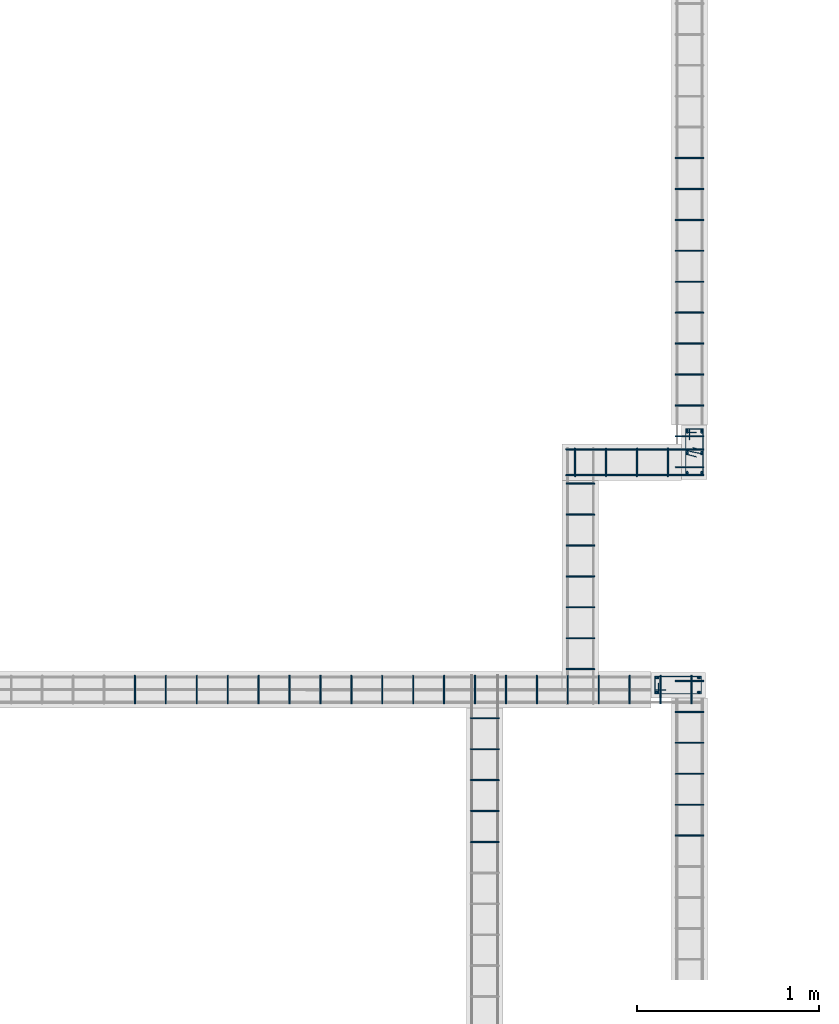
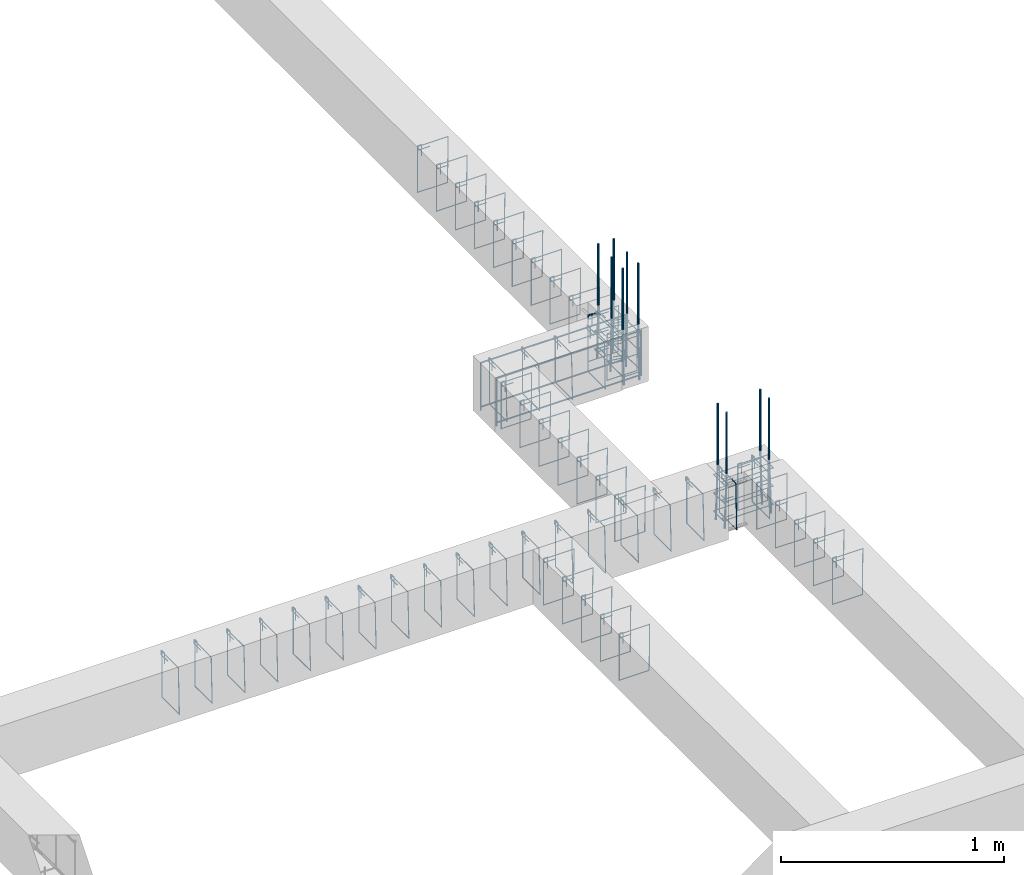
# One storey, part 37 of 150: 75 reinforcing bars.
"""IFC4 building model written with IfcOpenShell, lengths in centimetres."""

from ifc_helpers import new_model, entity, si_unit, derived_unit, frame, origin_with_axes, place, context, project, spatial, source, transform, mapped, element, save


model = new_model("IFC4")

# Units and contexts
model_context = context("Model", 3, precision=1e-05, world=origin_with_axes(), identifier="Body")
ifc_project = project(units=[si_unit("LENGTHUNIT", "METRE", prefix="CENTI"), si_unit("VOLUMEUNIT", "CUBIC_METRE"), si_unit("AREAUNIT", "SQUARE_METRE"), si_unit("POWERUNIT", "WATT"), si_unit("LUMINOUSFLUXUNIT", "LUMEN"), si_unit("ELECTRICCURRENTUNIT", "AMPERE"), si_unit("PRESSUREUNIT", "PASCAL", prefix="KILO"), si_unit("MASSUNIT", "GRAM", prefix="KILO"), si_unit("PLANEANGLEUNIT", "RADIAN"), derived_unit("VOLUMETRICFLOWRATEUNIT", [(si_unit("LENGTHUNIT", "METRE"), 3), (si_unit("TIMEUNIT", "SECOND"), -1)])], contexts=[model_context])

# Site, building, storey
site_placement = place(None, frame((-4000.0, 0.0, 0.0), z_axis=(0.0, 0.0, 1.0), x_axis=(1.0, 0.0, 0.0)))
site = spatial("IfcSite", under=ifc_project, at=site_placement, Name="PADRÃO")
building_placement = place(site_placement, frame((0.0, 0.0, -14.0)))
building = spatial("IfcBuilding", under=site, at=building_placement, Name="CRECHE PRÉ-ESCOLA TIPO 2")
placement = place(building_placement, origin_with_axes())
storey_placement = place(placement, frame((0.0, 0.0, 30.0), z_axis=(0.0, 0.0, 1.0), x_axis=(1.0, 0.0, 0.0)))
storey = spatial("IfcBuildingStorey", under=building, at=storey_placement, Name="VIGA BALDRAME", CompositionType="ELEMENT", Elevation=16.0)

# Reinforcing bars
shared_shape_1 = source(origin_with_axes(), model_context, "Body", "AdvancedSweptSolid", [
    entity("IfcSweptDiskSolid", entity("IfcCompositeCurve", [entity("IfcCompositeCurveSegment", "CONTINUOUS", True, entity("IfcPolyline", [entity("IfcCartesianPoint", [4.25, 21.75, 0.0]), entity("IfcCartesianPoint", [4.25, 27.75, 0.0])])), entity("IfcCompositeCurveSegment", "CONTINUOUS", True, entity("IfcPolyline", [entity("IfcCartesianPoint", [4.25, 27.75, 0.0]), entity("IfcCartesianPoint", [2.25, 27.75, 0.0])])), entity("IfcCompositeCurveSegment", "CONTINUOUS", True, entity("IfcPolyline", [entity("IfcCartesianPoint", [2.25, 27.75, 0.0]), entity("IfcCartesianPoint", [2.25, 2.25, 0.0])])), entity("IfcCompositeCurveSegment", "CONTINUOUS", True, entity("IfcPolyline", [entity("IfcCartesianPoint", [2.25, 2.25, 0.0]), entity("IfcCartesianPoint", [11.75, 2.25, 0.0])])), entity("IfcCompositeCurveSegment", "CONTINUOUS", True, entity("IfcPolyline", [entity("IfcCartesianPoint", [11.75, 2.25, 0.0]), entity("IfcCartesianPoint", [11.75, 27.75, -0.5])])), entity("IfcCompositeCurveSegment", "CONTINUOUS", True, entity("IfcPolyline", [entity("IfcCartesianPoint", [11.75, 27.75, -0.5]), entity("IfcCartesianPoint", [2.25, 27.75, -0.5])])), entity("IfcCompositeCurveSegment", "CONTINUOUS", True, entity("IfcPolyline", [entity("IfcCartesianPoint", [2.25, 27.75, -0.5]), entity("IfcCartesianPoint", [2.25, 25.75, -0.5])])), entity("IfcCompositeCurveSegment", "CONTINUOUS", True, entity("IfcPolyline", [entity("IfcCartesianPoint", [2.25, 25.75, -0.5]), entity("IfcCartesianPoint", [8.25, 25.75, -0.5])]))], False), 0.25),
])
for number, where, z_axis, x_axis, name in (
    (1, (1111.72, 1415.5, -25.0), (0.0, 0.0, 1.0), (1.0, 0.0, 0.0), "P102 - Estribo"),
    (2, (1111.72, 1415.5, -15.0), (0.0, 0.0, 1.0), (1.0, 0.0, 0.0), "P102 - Estribo"),
    (3, (1111.72, 1415.5, -5.0), (0.0, 0.0, 1.0), (1.0, 0.0, 0.0), "P102 - Estribo"),
):
    element("IfcReinforcingBar", number, at=place(storey_placement, frame(where, z_axis=z_axis, x_axis=x_axis)), inside=storey, Name=name, BarLength=0.0, CrossSectionArea=1.9634954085e-05, NominalDiameter=0.5, PredefinedType="MAIN", context=model_context, shape_type="MappedRepresentation", body=[
        mapped(shared_shape_1, transform((0.0, 0.0, 0.0), scale=1.0)),
    ])
shared_shape_2 = source(origin_with_axes(), model_context, "Body", "AdvancedSweptSolid", [
    entity("IfcSweptDiskSolid", entity("IfcCompositeCurve", [entity("IfcCompositeCurveSegment", "CONTINUOUS", True, entity("IfcPolyline", [entity("IfcCartesianPoint", [5.88627916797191, 17.5449050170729, 0.0]), entity("IfcCartesianPoint", [11.75, 16.0, 0.0])])), entity("IfcCompositeCurveSegment", "CONTINUOUS", True, entity("IfcPolyline", [entity("IfcCartesianPoint", [11.75, 16.0, 0.0]), entity("IfcCartesianPoint", [11.75, 14.0, 0.0])])), entity("IfcCompositeCurveSegment", "CONTINUOUS", True, entity("IfcPolyline", [entity("IfcCartesianPoint", [11.75, 14.0, 0.0]), entity("IfcCartesianPoint", [2.25, 16.0, 0.0])])), entity("IfcCompositeCurveSegment", "CONTINUOUS", True, entity("IfcPolyline", [entity("IfcCartesianPoint", [2.25, 16.0, 0.0]), entity("IfcCartesianPoint", [2.25, 14.0, 0.0])])), entity("IfcCompositeCurveSegment", "CONTINUOUS", True, entity("IfcPolyline", [entity("IfcCartesianPoint", [2.25, 14.0, 0.0]), entity("IfcCartesianPoint", [8.11372083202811, 12.4550949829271, 0.0])]))], False), 0.25),
])
for number, where, z_axis, x_axis, name in (
    (4, (1111.72, 1415.5, -24.5), (0.0, 0.0, 1.0), (1.0, 0.0, 0.0), "P102 - Grampo"),
    (5, (1111.72, 1415.5, -14.5), (0.0, 0.0, 1.0), (1.0, 0.0, 0.0), "P102 - Grampo"),
    (6, (1111.72, 1415.5, -4.5), (0.0, 0.0, 1.0), (1.0, 0.0, 0.0), "P102 - Grampo"),
):
    element("IfcReinforcingBar", number, at=place(storey_placement, frame(where, z_axis=z_axis, x_axis=x_axis)), inside=storey, Name=name, BarLength=0.0, CrossSectionArea=1.9634954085e-05, NominalDiameter=0.5, PredefinedType="MAIN", context=model_context, shape_type="MappedRepresentation", body=[
        mapped(shared_shape_2, transform((0.0, 0.0, 0.0), scale=1.0)),
    ])
shared_shape_3 = source(origin_with_axes(), model_context, "Body", "AdvancedSweptSolid", [
    entity("IfcSweptDiskSolid", entity("IfcCompositeCurve", [entity("IfcCompositeCurveSegment", "CONTINUOUS", True, entity("IfcPolyline", [entity("IfcCartesianPoint", [4.25, 21.75, 0.0]), entity("IfcCartesianPoint", [4.25, 27.75, 0.0])])), entity("IfcCompositeCurveSegment", "CONTINUOUS", True, entity("IfcPolyline", [entity("IfcCartesianPoint", [4.25, 27.75, 0.0]), entity("IfcCartesianPoint", [2.25, 27.75, 0.0])])), entity("IfcCompositeCurveSegment", "CONTINUOUS", True, entity("IfcPolyline", [entity("IfcCartesianPoint", [2.25, 27.75, 0.0]), entity("IfcCartesianPoint", [2.25, 2.25, 0.0])])), entity("IfcCompositeCurveSegment", "CONTINUOUS", True, entity("IfcPolyline", [entity("IfcCartesianPoint", [2.25, 2.25, 0.0]), entity("IfcCartesianPoint", [11.75, 2.25, 0.0])])), entity("IfcCompositeCurveSegment", "CONTINUOUS", True, entity("IfcPolyline", [entity("IfcCartesianPoint", [11.75, 2.25, 0.0]), entity("IfcCartesianPoint", [11.75, 27.75, -0.5])])), entity("IfcCompositeCurveSegment", "CONTINUOUS", True, entity("IfcPolyline", [entity("IfcCartesianPoint", [11.75, 27.75, -0.5]), entity("IfcCartesianPoint", [2.25, 27.75, -0.5])])), entity("IfcCompositeCurveSegment", "CONTINUOUS", True, entity("IfcPolyline", [entity("IfcCartesianPoint", [2.25, 27.75, -0.5]), entity("IfcCartesianPoint", [2.25, 25.75, -0.5])])), entity("IfcCompositeCurveSegment", "CONTINUOUS", True, entity("IfcPolyline", [entity("IfcCartesianPoint", [2.25, 25.75, -0.5]), entity("IfcCartesianPoint", [8.25, 25.75, -0.5])]))], False), 0.25),
])
for number, where, z_axis, x_axis, name in (
    (7, (1124.72, 1295.5, -5.0), (0.0, 0.0, 1.0), (0.0, 1.0, 0.0), "P109 - Estribo"),
    (8, (1124.72, 1295.5, -15.0), (0.0, 0.0, 1.0), (0.0, 1.0, 0.0), "P109 - Estribo"),
    (9, (1124.72, 1295.5, -25.0), (0.0, 0.0, 1.0), (0.0, 1.0, 0.0), "P109 - Estribo"),
):
    element("IfcReinforcingBar", number, at=place(storey_placement, frame(where, z_axis=z_axis, x_axis=x_axis)), inside=storey, Name=name, BarLength=0.0, CrossSectionArea=1.9634954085e-05, NominalDiameter=0.5, PredefinedType="MAIN", context=model_context, shape_type="MappedRepresentation", body=[
        mapped(shared_shape_3, transform((0.0, 0.0, 0.0), scale=1.0)),
    ])
shared_shape_4 = source(origin_with_axes(), model_context, "Body", "AdvancedSweptSolid", [
    entity("IfcSweptDiskSolid", entity("IfcCompositeCurve", [entity("IfcCompositeCurveSegment", "CONTINUOUS", True, entity("IfcPolyline", [entity("IfcCartesianPoint", [2.0, -6.0, 0.0]), entity("IfcCartesianPoint", [2.0, 0.0, 0.0])])), entity("IfcCompositeCurveSegment", "CONTINUOUS", True, entity("IfcPolyline", [entity("IfcCartesianPoint", [2.0, 0.0, 0.0]), entity("IfcCartesianPoint", [0.0, 0.0, 0.0])])), entity("IfcCompositeCurveSegment", "CONTINUOUS", True, entity("IfcPolyline", [entity("IfcCartesianPoint", [0.0, 0.0, 0.0]), entity("IfcCartesianPoint", [0.0, -25.5, 0.0])])), entity("IfcCompositeCurveSegment", "CONTINUOUS", True, entity("IfcPolyline", [entity("IfcCartesianPoint", [0.0, -25.5, 0.0]), entity("IfcCartesianPoint", [15.5, -25.5, 0.0])])), entity("IfcCompositeCurveSegment", "CONTINUOUS", True, entity("IfcPolyline", [entity("IfcCartesianPoint", [15.5, -25.5, 0.0]), entity("IfcCartesianPoint", [15.5, 0.0, 0.5])])), entity("IfcCompositeCurveSegment", "CONTINUOUS", True, entity("IfcPolyline", [entity("IfcCartesianPoint", [15.5, 0.0, 0.5]), entity("IfcCartesianPoint", [0.0, 0.0, 0.5])])), entity("IfcCompositeCurveSegment", "CONTINUOUS", True, entity("IfcPolyline", [entity("IfcCartesianPoint", [0.0, 0.0, 0.5]), entity("IfcCartesianPoint", [0.0, -2.0, 0.5])])), entity("IfcCompositeCurveSegment", "CONTINUOUS", True, entity("IfcPolyline", [entity("IfcCartesianPoint", [0.0, -2.0, 0.5]), entity("IfcCartesianPoint", [6.0, -2.0, 0.5])]))], False), 0.25),
])
for number, where, z_axis, x_axis, name in (
    (10, (1108.25, 1254.0, -2.25), (0.0, -1.0, 0.0), (1.0, 0.0, 0.0), "V182 - Estribo"),
    (11, (1108.25, 1237.0, -2.25), (0.0, -1.0, 0.0), (1.0, 0.0, 0.0), "V182 - Estribo"),
    (12, (1108.25, 1305.0, -2.25), (0.0, -1.0, 0.0), (1.0, 0.0, 0.0), "V182 - Estribo"),
    (13, (1108.25, 1288.0, -2.25), (0.0, -1.0, 0.0), (1.0, 0.0, 0.0), "V182 - Estribo"),
    (14, (1108.25, 1271.0, -2.25), (0.0, -1.0, 0.0), (1.0, 0.0, 0.0), "V182 - Estribo"),
    (15, (1108.25, 1220.0, -2.25), (0.0, -1.0, 0.0), (1.0, 0.0, 0.0), "V182 - Estribo"),
):
    element("IfcReinforcingBar", number, at=place(storey_placement, frame(where, z_axis=z_axis, x_axis=x_axis)), inside=storey, Name=name, BarLength=0.0, CrossSectionArea=1.9634954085e-05, NominalDiameter=0.5, PredefinedType="MAIN", context=model_context, shape_type="MappedRepresentation", body=[
        mapped(shared_shape_4, transform((0.0, 0.0, 0.0), scale=1.0)),
    ])
shared_shape_5 = source(origin_with_axes(), model_context, "Body", "AdvancedSweptSolid", [
    entity("IfcSweptDiskSolid", entity("IfcCompositeCurve", [entity("IfcCompositeCurveSegment", "CONTINUOUS", True, entity("IfcPolyline", [entity("IfcCartesianPoint", [2.0, -6.0, 0.0]), entity("IfcCartesianPoint", [2.0, 0.0, 0.0])])), entity("IfcCompositeCurveSegment", "CONTINUOUS", True, entity("IfcPolyline", [entity("IfcCartesianPoint", [2.0, 0.0, 0.0]), entity("IfcCartesianPoint", [0.0, 0.0, 0.0])])), entity("IfcCompositeCurveSegment", "CONTINUOUS", True, entity("IfcPolyline", [entity("IfcCartesianPoint", [0.0, 0.0, 0.0]), entity("IfcCartesianPoint", [0.0, -25.5, 0.0])])), entity("IfcCompositeCurveSegment", "CONTINUOUS", True, entity("IfcPolyline", [entity("IfcCartesianPoint", [0.0, -25.5, 0.0]), entity("IfcCartesianPoint", [15.5, -25.5, 0.0])])), entity("IfcCompositeCurveSegment", "CONTINUOUS", True, entity("IfcPolyline", [entity("IfcCartesianPoint", [15.5, -25.5, 0.0]), entity("IfcCartesianPoint", [15.5, 0.0, 0.5])])), entity("IfcCompositeCurveSegment", "CONTINUOUS", True, entity("IfcPolyline", [entity("IfcCartesianPoint", [15.5, 0.0, 0.5]), entity("IfcCartesianPoint", [0.0, 0.0, 0.5])])), entity("IfcCompositeCurveSegment", "CONTINUOUS", True, entity("IfcPolyline", [entity("IfcCartesianPoint", [0.0, 0.0, 0.5]), entity("IfcCartesianPoint", [0.0, -2.0, 0.5])])), entity("IfcCompositeCurveSegment", "CONTINUOUS", True, entity("IfcPolyline", [entity("IfcCartesianPoint", [0.0, -2.0, 0.5]), entity("IfcCartesianPoint", [6.0, -2.0, 0.5])]))], False), 0.25),
])
for number, where, z_axis, x_axis, name in (
    (16, (964.36, 1307.75, -2.25), (-1.0, 0.0, 0.0), (0.0, -1.0, 0.0), "V136 - Estribo"),
    (17, (1117.36, 1307.75, -2.25), (-1.0, 0.0, 0.0), (0.0, -1.0, 0.0), "V136 - Estribo"),
    (18, (1100.36, 1307.75, -2.25), (-1.0, 0.0, 0.0), (0.0, -1.0, 0.0), "V136 - Estribo"),
    (19, (1083.36, 1307.75, -2.25), (-1.0, 0.0, 0.0), (0.0, -1.0, 0.0), "V136 - Estribo"),
    (20, (1066.36, 1307.75, -2.25), (-1.0, 0.0, 0.0), (0.0, -1.0, 0.0), "V136 - Estribo"),
    (21, (1049.36, 1307.75, -2.25), (-1.0, 0.0, 0.0), (0.0, -1.0, 0.0), "V136 - Estribo"),
    (22, (1032.36, 1307.75, -2.25), (-1.0, 0.0, 0.0), (0.0, -1.0, 0.0), "V136 - Estribo"),
    (23, (1015.36, 1307.75, -2.25), (-1.0, 0.0, 0.0), (0.0, -1.0, 0.0), "V136 - Estribo"),
    (24, (998.36, 1307.75, -2.25), (-1.0, 0.0, 0.0), (0.0, -1.0, 0.0), "V136 - Estribo"),
    (25, (981.36, 1307.75, -2.25), (-1.0, 0.0, 0.0), (0.0, -1.0, 0.0), "V136 - Estribo"),
    (26, (947.36, 1307.75, -2.25), (-1.0, 0.0, 0.0), (0.0, -1.0, 0.0), "V136 - Estribo"),
    (27, (930.36, 1307.75, -2.25), (-1.0, 0.0, 0.0), (0.0, -1.0, 0.0), "V136 - Estribo"),
    (28, (913.36, 1307.75, -2.25), (-1.0, 0.0, 0.0), (0.0, -1.0, 0.0), "V136 - Estribo"),
    (29, (896.36, 1307.75, -2.25), (-1.0, 0.0, 0.0), (0.0, -1.0, 0.0), "V136 - Estribo"),
    (30, (879.36, 1307.75, -2.25), (-1.0, 0.0, 0.0), (0.0, -1.0, 0.0), "V136 - Estribo"),
    (31, (862.36, 1307.75, -2.25), (-1.0, 0.0, 0.0), (0.0, -1.0, 0.0), "V136 - Estribo"),
    (32, (845.36, 1307.75, -2.25), (-1.0, 0.0, 0.0), (0.0, -1.0, 0.0), "V136 - Estribo"),
    (33, (828.36, 1307.75, -2.25), (-1.0, 0.0, 0.0), (0.0, -1.0, 0.0), "V136 - Estribo"),
    (34, (811.36, 1307.75, -2.25), (-1.0, 0.0, 0.0), (0.0, -1.0, 0.0), "V136 - Estribo"),
):
    element("IfcReinforcingBar", number, at=place(storey_placement, frame(where, z_axis=z_axis, x_axis=x_axis)), inside=storey, Name=name, BarLength=0.0, CrossSectionArea=1.9634954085e-05, NominalDiameter=0.5, PredefinedType="MAIN", context=model_context, shape_type="MappedRepresentation", body=[
        mapped(shared_shape_5, transform((0.0, 0.0, 0.0), scale=1.0)),
    ])
shared_shape_6 = source(origin_with_axes(), model_context, "Body", "AdvancedSweptSolid", [
    entity("IfcSweptDiskSolid", entity("IfcCompositeCurve", [entity("IfcCompositeCurveSegment", "CONTINUOUS", True, entity("IfcPolyline", [entity("IfcCartesianPoint", [2.0, -6.0, 0.0]), entity("IfcCartesianPoint", [2.0, 0.0, 0.0])])), entity("IfcCompositeCurveSegment", "CONTINUOUS", True, entity("IfcPolyline", [entity("IfcCartesianPoint", [2.0, 0.0, 0.0]), entity("IfcCartesianPoint", [0.0, 0.0, 0.0])])), entity("IfcCompositeCurveSegment", "CONTINUOUS", True, entity("IfcPolyline", [entity("IfcCartesianPoint", [0.0, 0.0, 0.0]), entity("IfcCartesianPoint", [0.0, -25.5, 0.0])])), entity("IfcCompositeCurveSegment", "CONTINUOUS", True, entity("IfcPolyline", [entity("IfcCartesianPoint", [0.0, -25.5, 0.0]), entity("IfcCartesianPoint", [15.5, -25.5, 0.0])])), entity("IfcCompositeCurveSegment", "CONTINUOUS", True, entity("IfcPolyline", [entity("IfcCartesianPoint", [15.5, -25.5, 0.0]), entity("IfcCartesianPoint", [15.5, 0.0, 0.5])])), entity("IfcCompositeCurveSegment", "CONTINUOUS", True, entity("IfcPolyline", [entity("IfcCartesianPoint", [15.5, 0.0, 0.5]), entity("IfcCartesianPoint", [0.0, 0.0, 0.5])])), entity("IfcCompositeCurveSegment", "CONTINUOUS", True, entity("IfcPolyline", [entity("IfcCartesianPoint", [0.0, 0.0, 0.5]), entity("IfcCartesianPoint", [0.0, -2.0, 0.5])])), entity("IfcCompositeCurveSegment", "CONTINUOUS", True, entity("IfcPolyline", [entity("IfcCartesianPoint", [0.0, -2.0, 0.5]), entity("IfcCartesianPoint", [6.0, -2.0, 0.5])]))], False), 0.25),
])
for number, where, z_axis, x_axis, name in (
    (35, (1108.25, 1473.5, -2.25), (0.0, -1.0, 0.0), (1.0, 0.0, 0.0), "V183 - Estribo"),
    (36, (1108.25, 1456.5, -2.25), (0.0, -1.0, 0.0), (1.0, 0.0, 0.0), "V183 - Estribo"),
    (37, (1108.25, 1439.5, -2.25), (0.0, -1.0, 0.0), (1.0, 0.0, 0.0), "V183 - Estribo"),
    (38, (1108.25, 1422.5, -2.25), (0.0, -1.0, 0.0), (1.0, 0.0, 0.0), "V183 - Estribo"),
    (39, (1108.25, 1592.5, -2.25), (0.0, -1.0, 0.0), (1.0, 0.0, 0.0), "V183 - Estribo"),
    (40, (1108.25, 1575.5, -2.25), (0.0, -1.0, 0.0), (1.0, 0.0, 0.0), "V183 - Estribo"),
    (41, (1108.25, 1558.5, -2.25), (0.0, -1.0, 0.0), (1.0, 0.0, 0.0), "V183 - Estribo"),
    (42, (1108.25, 1541.5, -2.25), (0.0, -1.0, 0.0), (1.0, 0.0, 0.0), "V183 - Estribo"),
    (43, (1108.25, 1524.5, -2.25), (0.0, -1.0, 0.0), (1.0, 0.0, 0.0), "V183 - Estribo"),
    (44, (1108.25, 1507.5, -2.25), (0.0, -1.0, 0.0), (1.0, 0.0, 0.0), "V183 - Estribo"),
    (45, (1108.25, 1490.5, -2.25), (0.0, -1.0, 0.0), (1.0, 0.0, 0.0), "V183 - Estribo"),
):
    element("IfcReinforcingBar", number, at=place(storey_placement, frame(where, z_axis=z_axis, x_axis=x_axis)), inside=storey, Name=name, BarLength=0.0, CrossSectionArea=1.9634954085e-05, NominalDiameter=0.5, PredefinedType="MAIN", context=model_context, shape_type="MappedRepresentation", body=[
        mapped(shared_shape_6, transform((0.0, 0.0, 0.0), scale=1.0)),
    ])
shared_shape_7 = source(origin_with_axes(), model_context, "Body", "AdvancedSweptSolid", [
    entity("IfcSweptDiskSolid", entity("IfcCompositeCurve", [entity("IfcCompositeCurveSegment", "CONTINUOUS", True, entity("IfcPolyline", [entity("IfcCartesianPoint", [2.0, -6.0, 0.0]), entity("IfcCartesianPoint", [2.0, 0.0, 0.0])])), entity("IfcCompositeCurveSegment", "CONTINUOUS", True, entity("IfcPolyline", [entity("IfcCartesianPoint", [2.0, 0.0, 0.0]), entity("IfcCartesianPoint", [0.0, 0.0, 0.0])])), entity("IfcCompositeCurveSegment", "CONTINUOUS", True, entity("IfcPolyline", [entity("IfcCartesianPoint", [0.0, 0.0, 0.0]), entity("IfcCartesianPoint", [0.0, -25.5, 0.0])])), entity("IfcCompositeCurveSegment", "CONTINUOUS", True, entity("IfcPolyline", [entity("IfcCartesianPoint", [0.0, -25.5, 0.0]), entity("IfcCartesianPoint", [15.5, -25.5, 0.0])])), entity("IfcCompositeCurveSegment", "CONTINUOUS", True, entity("IfcPolyline", [entity("IfcCartesianPoint", [15.5, -25.5, 0.0]), entity("IfcCartesianPoint", [15.5, 0.0, 0.5])])), entity("IfcCompositeCurveSegment", "CONTINUOUS", True, entity("IfcPolyline", [entity("IfcCartesianPoint", [15.5, 0.0, 0.5]), entity("IfcCartesianPoint", [0.0, 0.0, 0.5])])), entity("IfcCompositeCurveSegment", "CONTINUOUS", True, entity("IfcPolyline", [entity("IfcCartesianPoint", [0.0, 0.0, 0.5]), entity("IfcCartesianPoint", [0.0, -2.0, 0.5])])), entity("IfcCompositeCurveSegment", "CONTINUOUS", True, entity("IfcPolyline", [entity("IfcCartesianPoint", [0.0, -2.0, 0.5]), entity("IfcCartesianPoint", [6.0, -2.0, 0.5])]))], False), 0.25),
])
for number, where, z_axis, x_axis, name in (
    (46, (1048.25, 1413.5, -2.25), (0.0, -1.0, 0.0), (1.0, 0.0, 0.0), "V180 - Estribo"),
    (47, (1048.25, 1328.5, -2.25), (0.0, -1.0, 0.0), (1.0, 0.0, 0.0), "V180 - Estribo"),
    (48, (1048.25, 1311.5, -2.25), (0.0, -1.0, 0.0), (1.0, 0.0, 0.0), "V180 - Estribo"),
    (49, (1048.25, 1396.5, -2.25), (0.0, -1.0, 0.0), (1.0, 0.0, 0.0), "V180 - Estribo"),
    (50, (1048.25, 1379.5, -2.25), (0.0, -1.0, 0.0), (1.0, 0.0, 0.0), "V180 - Estribo"),
    (51, (1048.25, 1362.5, -2.25), (0.0, -1.0, 0.0), (1.0, 0.0, 0.0), "V180 - Estribo"),
    (52, (1048.25, 1345.5, -2.25), (0.0, -1.0, 0.0), (1.0, 0.0, 0.0), "V180 - Estribo"),
):
    element("IfcReinforcingBar", number, at=place(storey_placement, frame(where, z_axis=z_axis, x_axis=x_axis)), inside=storey, Name=name, BarLength=0.0, CrossSectionArea=1.9634954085e-05, NominalDiameter=0.5, PredefinedType="MAIN", context=model_context, shape_type="MappedRepresentation", body=[
        mapped(shared_shape_7, transform((0.0, 0.0, 0.0), scale=1.0)),
    ])
shared_shape_8 = source(origin_with_axes(), model_context, "Body", "AdvancedSweptSolid", [
    entity("IfcSweptDiskSolid", entity("IfcCompositeCurve", [entity("IfcCompositeCurveSegment", "CONTINUOUS", True, entity("IfcPolyline", [entity("IfcCartesianPoint", [2.0, -6.0, 0.0]), entity("IfcCartesianPoint", [2.0, 0.0, 0.0])])), entity("IfcCompositeCurveSegment", "CONTINUOUS", True, entity("IfcPolyline", [entity("IfcCartesianPoint", [2.0, 0.0, 0.0]), entity("IfcCartesianPoint", [0.0, 0.0, 0.0])])), entity("IfcCompositeCurveSegment", "CONTINUOUS", True, entity("IfcPolyline", [entity("IfcCartesianPoint", [0.0, 0.0, 0.0]), entity("IfcCartesianPoint", [0.0, -25.5, 0.0])])), entity("IfcCompositeCurveSegment", "CONTINUOUS", True, entity("IfcPolyline", [entity("IfcCartesianPoint", [0.0, -25.5, 0.0]), entity("IfcCartesianPoint", [15.5, -25.5, 0.0])])), entity("IfcCompositeCurveSegment", "CONTINUOUS", True, entity("IfcPolyline", [entity("IfcCartesianPoint", [15.5, -25.5, 0.0]), entity("IfcCartesianPoint", [15.5, 0.0, 0.5])])), entity("IfcCompositeCurveSegment", "CONTINUOUS", True, entity("IfcPolyline", [entity("IfcCartesianPoint", [15.5, 0.0, 0.5]), entity("IfcCartesianPoint", [0.0, 0.0, 0.5])])), entity("IfcCompositeCurveSegment", "CONTINUOUS", True, entity("IfcPolyline", [entity("IfcCartesianPoint", [0.0, 0.0, 0.5]), entity("IfcCartesianPoint", [0.0, -2.0, 0.5])])), entity("IfcCompositeCurveSegment", "CONTINUOUS", True, entity("IfcPolyline", [entity("IfcCartesianPoint", [0.0, -2.0, 0.5]), entity("IfcCartesianPoint", [6.0, -2.0, 0.5])]))], False), 0.25),
])
for number, where, z_axis, x_axis, name in (
    (53, (1053.36, 1432.75, -2.25), (-1.0, 0.0, 0.0), (0.0, -1.0, 0.0), "V134 - Estribo"),
    (54, (1104.36, 1432.75, -2.25), (-1.0, 0.0, 0.0), (0.0, -1.0, 0.0), "V134 - Estribo"),
    (55, (1087.36, 1432.75, -2.25), (-1.0, 0.0, 0.0), (0.0, -1.0, 0.0), "V134 - Estribo"),
    (56, (1070.36, 1432.75, -2.25), (-1.0, 0.0, 0.0), (0.0, -1.0, 0.0), "V134 - Estribo"),
):
    element("IfcReinforcingBar", number, at=place(storey_placement, frame(where, z_axis=z_axis, x_axis=x_axis)), inside=storey, Name=name, BarLength=0.0, CrossSectionArea=1.9634954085e-05, NominalDiameter=0.5, PredefinedType="MAIN", context=model_context, shape_type="MappedRepresentation", body=[
        mapped(shared_shape_8, transform((0.0, 0.0, 0.0), scale=1.0)),
    ])
shared_shape_9 = source(origin_with_axes(), model_context, "Body", "AdvancedSweptSolid", [
    entity("IfcSweptDiskSolid", entity("IfcCompositeCurve", [entity("IfcCompositeCurveSegment", "CONTINUOUS", True, entity("IfcPolyline", [entity("IfcCartesianPoint", [2.0, -6.0, 0.0]), entity("IfcCartesianPoint", [2.0, 0.0, 0.0])])), entity("IfcCompositeCurveSegment", "CONTINUOUS", True, entity("IfcPolyline", [entity("IfcCartesianPoint", [2.0, 0.0, 0.0]), entity("IfcCartesianPoint", [0.0, 0.0, 0.0])])), entity("IfcCompositeCurveSegment", "CONTINUOUS", True, entity("IfcPolyline", [entity("IfcCartesianPoint", [0.0, 0.0, 0.0]), entity("IfcCartesianPoint", [0.0, -25.5, 0.0])])), entity("IfcCompositeCurveSegment", "CONTINUOUS", True, entity("IfcPolyline", [entity("IfcCartesianPoint", [0.0, -25.5, 0.0]), entity("IfcCartesianPoint", [15.5, -25.5, 0.0])])), entity("IfcCompositeCurveSegment", "CONTINUOUS", True, entity("IfcPolyline", [entity("IfcCartesianPoint", [15.5, -25.5, 0.0]), entity("IfcCartesianPoint", [15.5, 0.0, 0.5])])), entity("IfcCompositeCurveSegment", "CONTINUOUS", True, entity("IfcPolyline", [entity("IfcCartesianPoint", [15.5, 0.0, 0.5]), entity("IfcCartesianPoint", [0.0, 0.0, 0.5])])), entity("IfcCompositeCurveSegment", "CONTINUOUS", True, entity("IfcPolyline", [entity("IfcCartesianPoint", [0.0, 0.0, 0.5]), entity("IfcCartesianPoint", [0.0, -2.0, 0.5])])), entity("IfcCompositeCurveSegment", "CONTINUOUS", True, entity("IfcPolyline", [entity("IfcCartesianPoint", [0.0, -2.0, 0.5]), entity("IfcCartesianPoint", [6.0, -2.0, 0.5])]))], False), 0.25),
])
for number, where, z_axis, x_axis, name in (
    (57, (995.7, 1233.5, -2.25), (0.0, -1.0, 0.0), (1.0, 0.0, 0.0), "V178 - Estribo"),
    (58, (995.7, 1250.5, -2.25), (0.0, -1.0, 0.0), (1.0, 0.0, 0.0), "V178 - Estribo"),
    (59, (995.7, 1267.5, -2.25), (0.0, -1.0, 0.0), (1.0, 0.0, 0.0), "V178 - Estribo"),
    (60, (995.7, 1284.5, -2.25), (0.0, -1.0, 0.0), (1.0, 0.0, 0.0), "V178 - Estribo"),
    (61, (995.7, 1216.5, -2.25), (0.0, -1.0, 0.0), (1.0, 0.0, 0.0), "V178 - Estribo"),
):
    element("IfcReinforcingBar", number, at=place(storey_placement, frame(where, z_axis=z_axis, x_axis=x_axis)), inside=storey, Name=name, BarLength=0.0, CrossSectionArea=1.9634954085e-05, NominalDiameter=0.5, PredefinedType="MAIN", context=model_context, shape_type="MappedRepresentation", body=[
        mapped(shared_shape_9, transform((0.0, 0.0, 0.0), scale=1.0)),
    ])
for number, where, z_axis, x_axis, name in (
    (62, (1114.72, 1429.99986122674, 33.3573001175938), (0.0, 0.0, 1.0), (1.0, 0.0, 0.0), "P102 - Longitudinal"),
    (63, (1122.72, 1429.99986122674, 33.3573001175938), (0.0, 0.0, 1.0), (1.0, 0.0, 0.0), "P102 - Longitudinal"),
    (64, (1114.72, 1441.99986122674, 33.3573001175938), (0.0, 0.0, 1.0), (1.0, 0.0, 0.0), "P102 - Longitudinal"),
    (65, (1122.72, 1441.99986122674, 33.3573001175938), (0.0, 0.0, 1.0), (1.0, 0.0, 0.0), "P102 - Longitudinal"),
):
    element("IfcReinforcingBar", number, at=place(storey_placement, frame(where, z_axis=z_axis, x_axis=x_axis)), inside=storey, Name=name, BarLength=0.0, CrossSectionArea=7.853981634e-05, NominalDiameter=1.0, PredefinedType="MAIN", context=model_context, shape_type="AdvancedSweptSolid", body=[
        entity("IfcSweptDiskSolid", entity("IfcCompositeCurve", [entity("IfcCompositeCurveSegment", "CONTINUOUS", True, entity("IfcPolyline", [entity("IfcCartesianPoint", [0.0, 0.50013877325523, -63.3573001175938]), entity("IfcCartesianPoint", [0.0, -0.49986122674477, -33.3573001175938])])), entity("IfcCompositeCurveSegment", "CONTINUOUS", True, entity("IfcPolyline", [entity("IfcCartesianPoint", [0.0, -0.49986122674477, -33.3573001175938]), entity("IfcCartesianPoint", [0.0, -0.49986122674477, 0.0])]))], False), 0.5),
    ])
for number, where, z_axis, x_axis, name in (
    (66, (1122.72, 1419.00013877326, 33.3573001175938), (0.0, 0.0, 1.0), (1.0, 0.0, 0.0), "P102 - Longitudinal"),
    (67, (1114.72, 1419.00013877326, 33.3573001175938), (0.0, 0.0, 1.0), (1.0, 0.0, 0.0), "P102 - Longitudinal"),
):
    element("IfcReinforcingBar", number, at=place(storey_placement, frame(where, z_axis=z_axis, x_axis=x_axis)), inside=storey, Name=name, BarLength=0.0, CrossSectionArea=7.853981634e-05, NominalDiameter=1.0, PredefinedType="MAIN", context=model_context, shape_type="AdvancedSweptSolid", body=[
        entity("IfcSweptDiskSolid", entity("IfcCompositeCurve", [entity("IfcCompositeCurveSegment", "CONTINUOUS", True, entity("IfcPolyline", [entity("IfcCartesianPoint", [0.0, -0.50013877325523, -63.3573001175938]), entity("IfcCartesianPoint", [0.0, 0.49986122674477, -33.3573001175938])])), entity("IfcCompositeCurveSegment", "CONTINUOUS", True, entity("IfcPolyline", [entity("IfcCartesianPoint", [0.0, 0.49986122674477, -33.3573001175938]), entity("IfcCartesianPoint", [0.0, 0.49986122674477, 0.0])]))], False), 0.5),
    ])
reinforcing_bar_1_placement = place(storey_placement, frame((1121.21986122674, 1306.5, 33.3573001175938), z_axis=(0.0, 0.0, 1.0), x_axis=(1.0, 0.0, 0.0)))
element("IfcReinforcingBar", 68, at=reinforcing_bar_1_placement, inside=storey, Name="P109 - Longitudinal", BarLength=0.0, CrossSectionArea=7.853981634e-05, NominalDiameter=1.0, PredefinedType="MAIN", context=model_context, shape_type="AdvancedSweptSolid", body=[
    entity("IfcSweptDiskSolid", entity("IfcCompositeCurve", [entity("IfcCompositeCurveSegment", "CONTINUOUS", True, entity("IfcPolyline", [entity("IfcCartesianPoint", [0.50013877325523, 0.0, -63.3573001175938]), entity("IfcCartesianPoint", [-0.49986122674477, 0.0, -33.3573001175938])])), entity("IfcCompositeCurveSegment", "CONTINUOUS", True, entity("IfcPolyline", [entity("IfcCartesianPoint", [-0.49986122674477, 0.0, -33.3573001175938]), entity("IfcCartesianPoint", [-0.49986122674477, 0.0, 0.0])]))], False), 0.5),
])
reinforcing_bar_2_placement = place(storey_placement, frame((1098.22013877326, 1306.5, 33.3573001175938), z_axis=(0.0, 0.0, 1.0), x_axis=(1.0, 0.0, 0.0)))
element("IfcReinforcingBar", 69, at=reinforcing_bar_2_placement, inside=storey, Name="P109 - Longitudinal", BarLength=0.0, CrossSectionArea=7.853981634e-05, NominalDiameter=1.0, PredefinedType="MAIN", context=model_context, shape_type="AdvancedSweptSolid", body=[
    entity("IfcSweptDiskSolid", entity("IfcCompositeCurve", [entity("IfcCompositeCurveSegment", "CONTINUOUS", True, entity("IfcPolyline", [entity("IfcCartesianPoint", [-0.50013877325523, 0.0, -63.3573001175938]), entity("IfcCartesianPoint", [0.49986122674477, 0.0, -33.3573001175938])])), entity("IfcCompositeCurveSegment", "CONTINUOUS", True, entity("IfcPolyline", [entity("IfcCartesianPoint", [0.49986122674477, 0.0, -33.3573001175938]), entity("IfcCartesianPoint", [0.49986122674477, 0.0, 0.0])]))], False), 0.5),
])
reinforcing_bar_3_placement = place(storey_placement, frame((1121.21986122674, 1298.5, 33.3573001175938), z_axis=(0.0, 0.0, 1.0), x_axis=(1.0, 0.0, 0.0)))
element("IfcReinforcingBar", 70, at=reinforcing_bar_3_placement, inside=storey, Name="P109 - Longitudinal", BarLength=0.0, CrossSectionArea=7.853981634e-05, NominalDiameter=1.0, PredefinedType="MAIN", context=model_context, shape_type="AdvancedSweptSolid", body=[
    entity("IfcSweptDiskSolid", entity("IfcCompositeCurve", [entity("IfcCompositeCurveSegment", "CONTINUOUS", True, entity("IfcPolyline", [entity("IfcCartesianPoint", [0.50013877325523, 0.0, -63.3573001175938]), entity("IfcCartesianPoint", [-0.49986122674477, 0.0, -33.3573001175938])])), entity("IfcCompositeCurveSegment", "CONTINUOUS", True, entity("IfcPolyline", [entity("IfcCartesianPoint", [-0.49986122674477, 0.0, -33.3573001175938]), entity("IfcCartesianPoint", [-0.49986122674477, 0.0, 0.0])]))], False), 0.5),
])
reinforcing_bar_4_placement = place(storey_placement, frame((1098.22013877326, 1298.5, 33.3573001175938), z_axis=(0.0, 0.0, 1.0), x_axis=(1.0, 0.0, 0.0)))
element("IfcReinforcingBar", 71, at=reinforcing_bar_4_placement, inside=storey, Name="P109 - Longitudinal", BarLength=0.0, CrossSectionArea=7.853981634e-05, NominalDiameter=1.0, PredefinedType="MAIN", context=model_context, shape_type="AdvancedSweptSolid", body=[
    entity("IfcSweptDiskSolid", entity("IfcCompositeCurve", [entity("IfcCompositeCurveSegment", "CONTINUOUS", True, entity("IfcPolyline", [entity("IfcCartesianPoint", [-0.50013877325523, 0.0, -63.3573001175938]), entity("IfcCartesianPoint", [0.49986122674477, 0.0, -33.3573001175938])])), entity("IfcCompositeCurveSegment", "CONTINUOUS", True, entity("IfcPolyline", [entity("IfcCartesianPoint", [0.49986122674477, 0.0, -33.3573001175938]), entity("IfcCartesianPoint", [0.49986122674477, 0.0, 0.0])]))], False), 0.5),
])
for number, where, z_axis, x_axis, name in (
    (72, (1085.8581248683, 1432.1, -3.2095935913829), (0.0, 0.0, 1.0), (1.0, 0.0, 0.0), "V134 - Longitudinal inferior"),
    (73, (1085.8581248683, 1417.9, -3.2095935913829), (0.0, 0.0, 1.0), (1.0, 0.0, 0.0), "V134 - Longitudinal inferior"),
):
    element("IfcReinforcingBar", number, at=place(storey_placement, frame(where, z_axis=z_axis, x_axis=x_axis)), inside=storey, Name=name, BarLength=0.0, CrossSectionArea=5.0265482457e-05, NominalDiameter=0.8, PredefinedType="MAIN", context=model_context, shape_type="AdvancedSweptSolid", body=[
        entity("IfcSweptDiskSolid", entity("IfcCompositeCurve", [entity("IfcCompositeCurveSegment", "CONTINUOUS", True, entity("IfcPolyline", [entity("IfcCartesianPoint", [-37.4581248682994, 0.0, 0.0]), entity("IfcCartesianPoint", [-37.4581248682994, 0.0, -23.8904064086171])])), entity("IfcCompositeCurveSegment", "CONTINUOUS", True, entity("IfcPolyline", [entity("IfcCartesianPoint", [-37.4581248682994, 0.0, -23.8904064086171]), entity("IfcCartesianPoint", [37.8618751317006, 0.0, -23.8904064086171])]))], False), 0.4),
    ])
for number, where, z_axis, x_axis, name in (
    (74, (1085.86, 1417.9, -2.49624973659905), (0.0, 0.0, 1.0), (1.0, 0.0, 0.0), "V134 - Longitudinal superior"),
    (75, (1085.86, 1432.1, -2.49624973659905), (0.0, 0.0, 1.0), (1.0, 0.0, 0.0), "V134 - Longitudinal superior"),
):
    element("IfcReinforcingBar", number, at=place(storey_placement, frame(where, z_axis=z_axis, x_axis=x_axis)), inside=storey, Name=name, BarLength=0.0, CrossSectionArea=5.0265482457e-05, NominalDiameter=0.8, PredefinedType="MAIN", context=model_context, shape_type="AdvancedSweptSolid", body=[
        entity("IfcSweptDiskSolid", entity("IfcCompositeCurve", [entity("IfcCompositeCurveSegment", "CONTINUOUS", True, entity("IfcPolyline", [entity("IfcCartesianPoint", [-37.46, 0.0, -26.403750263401]), entity("IfcCartesianPoint", [-37.46, 0.0, -0.403750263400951])])), entity("IfcCompositeCurveSegment", "CONTINUOUS", True, entity("IfcPolyline", [entity("IfcCartesianPoint", [-37.46, 0.0, -0.403750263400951]), entity("IfcCartesianPoint", [37.46, 0.0, -0.403750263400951])])), entity("IfcCompositeCurveSegment", "CONTINUOUS", True, entity("IfcPolyline", [entity("IfcCartesianPoint", [37.46, 0.0, -0.403750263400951]), entity("IfcCartesianPoint", [37.46, 0.0, -25.1400231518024])]))], False), 0.4),
    ])

save(model, "model.ifc")
